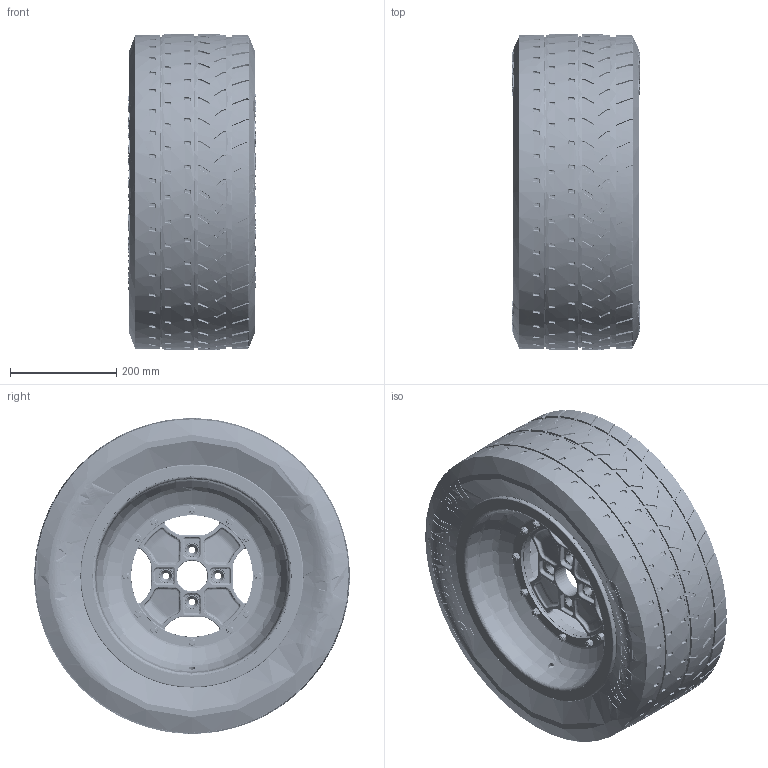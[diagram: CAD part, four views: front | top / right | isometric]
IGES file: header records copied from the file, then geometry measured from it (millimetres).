
Start section: SolidWorks IGES file using analytic representation for surfaces
Global section: file name: D:\Ïðîåêòè è ÷àñòè\Fiat 131 abarth gr4 cromodora wheels\Fiat 131 abarth gr4 cromodora wheels 8x15\Fiat 131 abarth gr4 cromodora wheels 8x15.IGS; native system: SolidWorks 2019; preprocessor: SolidWorks 2019; author: GOD; date: 250308.093625; units: millimetre
Bounding box: 240 x 595.4 x 595.4 mm (x, y, z)
Surface area: 2380857.9 mm2 (no closed solid volume)
Topology: 0 solids, 0 shells, 7307 faces, 77865 edges, 77417 vertices
Faces by surface type: bspline 4902, revolution 2405
